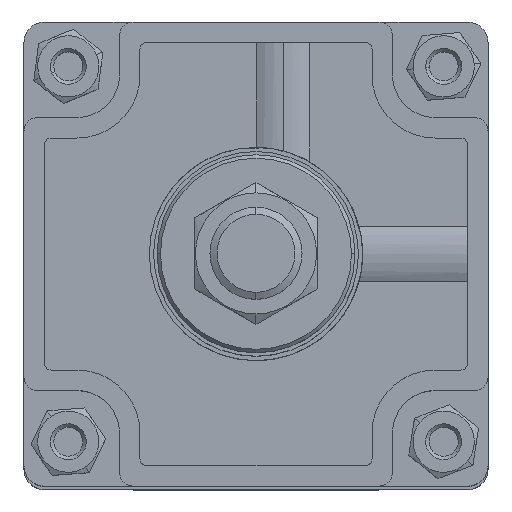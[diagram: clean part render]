
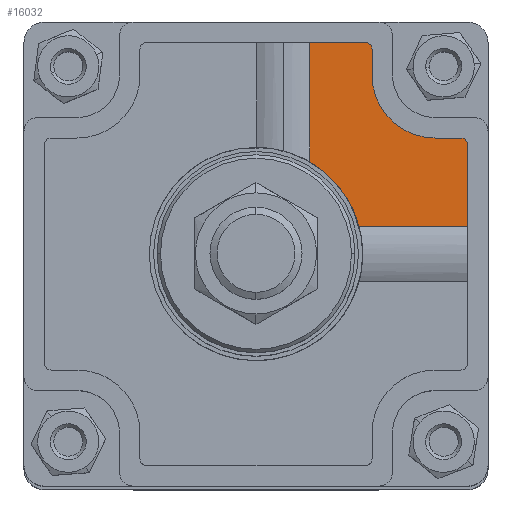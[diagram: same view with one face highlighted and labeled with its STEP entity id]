
A CAD part, top view. The second image highlights one B-rep face of the part: STEP entity #16032.
In plain terms, the highlighted planar face has unit normal (0, 0, 1).
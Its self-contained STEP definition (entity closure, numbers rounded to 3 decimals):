
#399 = DIRECTION ( 'NONE',  ( 0., -1., 0. ) ) ;
#523 = CIRCLE ( 'NONE', #9274, 18.5 ) ;
#610 = EDGE_CURVE ( 'NONE', #25256, #22177, #2977, .T. ) ;
#1156 = EDGE_CURVE ( 'NONE', #1988, #3345, #19160, .T. ) ;
#1238 = CARTESIAN_POINT ( 'NONE',  ( 62., 32., 136. ) ) ;
#1560 = ORIENTED_EDGE ( 'NONE', *, *, #4214, .T. ) ;
#1636 = CARTESIAN_POINT ( 'NONE',  ( 60., 34., 136. ) ) ;
#1784 = LINE ( 'NONE', #10355, #24903 ) ;
#1928 = VERTEX_POINT ( 'NONE', #2163 ) ;
#1988 = VERTEX_POINT ( 'NONE', #14610 ) ;
#2077 = DIRECTION ( 'NONE',  ( 1., 0., 0. ) ) ;
#2163 = CARTESIAN_POINT ( 'NONE',  ( 52.5, 34., 136. ) ) ;
#2244 = CARTESIAN_POINT ( 'NONE',  ( -32., 62., 136. ) ) ;
#2762 = CARTESIAN_POINT ( 'NONE',  ( 30.209, 8., 136. ) ) ;
#2977 = LINE ( 'NONE', #2244, #5774 ) ;
#3100 = CIRCLE ( 'NONE', #6891, 2. ) ;
#3345 = VERTEX_POINT ( 'NONE', #12943 ) ;
#3364 = ORIENTED_EDGE ( 'NONE', *, *, #18834, .T. ) ;
#3793 = ORIENTED_EDGE ( 'NONE', *, *, #20210, .F. ) ;
#3904 = VERTEX_POINT ( 'NONE', #11154 ) ;
#3955 = CARTESIAN_POINT ( 'NONE',  ( 52.5, 52.5, 136. ) ) ;
#4029 = EDGE_CURVE ( 'NONE', #7515, #25256, #14022, .T. ) ;
#4149 = PLANE ( 'NONE',  #18552 ) ;
#4214 = EDGE_CURVE ( 'NONE', #3904, #22686, #11516, .T. ) ;
#5097 = VECTOR ( 'NONE', #23611, 1000. ) ;
#5142 = AXIS2_PLACEMENT_3D ( 'NONE', #8513, #24770, #22482 ) ;
#5261 = CARTESIAN_POINT ( 'NONE',  ( 52.5, 34., 136. ) ) ;
#5381 = VERTEX_POINT ( 'NONE', #1636 ) ;
#5774 = VECTOR ( 'NONE', #19932, 1000. ) ;
#6891 = AXIS2_PLACEMENT_3D ( 'NONE', #9605, #7779, #7873 ) ;
#7115 = EDGE_CURVE ( 'NONE', #5381, #1928, #24540, .T. ) ;
#7310 = VECTOR ( 'NONE', #25092, 1000. ) ;
#7383 = CARTESIAN_POINT ( 'NONE',  ( 34., 60., 136. ) ) ;
#7439 = EDGE_CURVE ( 'NONE', #22686, #1988, #16371, .T. ) ;
#7515 = VERTEX_POINT ( 'NONE', #9149 ) ;
#7779 = DIRECTION ( 'NONE',  ( 0., 0., 1. ) ) ;
#7873 = DIRECTION ( 'NONE',  ( 1., 0., 0. ) ) ;
#7932 = DIRECTION ( 'NONE',  ( 1., 0., 0. ) ) ;
#8051 = DIRECTION ( 'NONE',  ( 0., 0., 1. ) ) ;
#8513 = CARTESIAN_POINT ( 'NONE',  ( 0., 0., 136. ) ) ;
#8806 = AXIS2_PLACEMENT_3D ( 'NONE', #19862, #11935, #7932 ) ;
#9149 = CARTESIAN_POINT ( 'NONE',  ( 34., 60., 136. ) ) ;
#9274 = AXIS2_PLACEMENT_3D ( 'NONE', #3955, #8051, #10050 ) ;
#9605 = CARTESIAN_POINT ( 'NONE',  ( 60., 32., 136. ) ) ;
#10050 = DIRECTION ( 'NONE',  ( 1., 0., 0. ) ) ;
#10250 = DIRECTION ( 'NONE',  ( 0., 0., 1. ) ) ;
#10273 = FACE_OUTER_BOUND ( 'NONE', #22165, .T. ) ;
#10355 = CARTESIAN_POINT ( 'NONE',  ( 15.81, -68.001, 136. ) ) ;
#10762 = ORIENTED_EDGE ( 'NONE', *, *, #1156, .T. ) ;
#11063 = VECTOR ( 'NONE', #22697, 1000. ) ;
#11154 = CARTESIAN_POINT ( 'NONE',  ( 15.81, 26.955, 136. ) ) ;
#11516 = CIRCLE ( 'NONE', #5142, 31.25 ) ;
#11843 = ORIENTED_EDGE ( 'NONE', *, *, #4029, .T. ) ;
#11935 = DIRECTION ( 'NONE',  ( 0., 0., 1. ) ) ;
#12372 = ORIENTED_EDGE ( 'NONE', *, *, #22802, .T. ) ;
#12583 = LINE ( 'NONE', #7383, #5097 ) ;
#12600 = ORIENTED_EDGE ( 'NONE', *, *, #610, .T. ) ;
#12943 = CARTESIAN_POINT ( 'NONE',  ( 62., 32., 136. ) ) ;
#12992 = CARTESIAN_POINT ( 'NONE',  ( 15.81, 62., 136. ) ) ;
#13118 = DIRECTION ( 'NONE',  ( -1., 0., 0. ) ) ;
#14022 = CIRCLE ( 'NONE', #8806, 2. ) ;
#14610 = CARTESIAN_POINT ( 'NONE',  ( 62., 8., 136. ) ) ;
#16032 = ADVANCED_FACE ( 'NONE', ( #10273 ), #4149, .T. ) ;
#16371 = LINE ( 'NONE', #24464, #11063 ) ;
#16881 = VERTEX_POINT ( 'NONE', #22901 ) ;
#18012 = CARTESIAN_POINT ( 'NONE',  ( 0., 0., 136. ) ) ;
#18552 = AXIS2_PLACEMENT_3D ( 'NONE', #18012, #10250, #2077 ) ;
#18834 = EDGE_CURVE ( 'NONE', #3345, #5381, #3100, .T. ) ;
#19160 = LINE ( 'NONE', #1238, #7310 ) ;
#19217 = CARTESIAN_POINT ( 'NONE',  ( 32., 62., 136. ) ) ;
#19862 = CARTESIAN_POINT ( 'NONE',  ( 32., 60., 136. ) ) ;
#19932 = DIRECTION ( 'NONE',  ( -1., 0., 0. ) ) ;
#20210 = EDGE_CURVE ( 'NONE', #16881, #1928, #523, .T. ) ;
#20687 = ORIENTED_EDGE ( 'NONE', *, *, #7115, .T. ) ;
#20910 = ORIENTED_EDGE ( 'NONE', *, *, #7439, .T. ) ;
#20912 = EDGE_CURVE ( 'NONE', #22177, #3904, #1784, .T. ) ;
#22165 = EDGE_LOOP ( 'NONE', ( #1560, #20910, #10762, #3364, #20687, #3793, #12372, #11843, #12600, #23103 ) ) ;
#22177 = VERTEX_POINT ( 'NONE', #12992 ) ;
#22482 = DIRECTION ( 'NONE',  ( -1., 0., 0. ) ) ;
#22686 = VERTEX_POINT ( 'NONE', #2762 ) ;
#22697 = DIRECTION ( 'NONE',  ( 1., 0., 0. ) ) ;
#22802 = EDGE_CURVE ( 'NONE', #16881, #7515, #12583, .T. ) ;
#22901 = CARTESIAN_POINT ( 'NONE',  ( 34., 52.5, 136. ) ) ;
#23103 = ORIENTED_EDGE ( 'NONE', *, *, #20912, .T. ) ;
#23280 = VECTOR ( 'NONE', #13118, 1000. ) ;
#23611 = DIRECTION ( 'NONE',  ( 0., 1., 0. ) ) ;
#24464 = CARTESIAN_POINT ( 'NONE',  ( -68.001, 8., 136. ) ) ;
#24540 = LINE ( 'NONE', #5261, #23280 ) ;
#24770 = DIRECTION ( 'NONE',  ( 0., 0., -1. ) ) ;
#24903 = VECTOR ( 'NONE', #399, 1000. ) ;
#25092 = DIRECTION ( 'NONE',  ( 0., 1., 0. ) ) ;
#25256 = VERTEX_POINT ( 'NONE', #19217 ) ;
